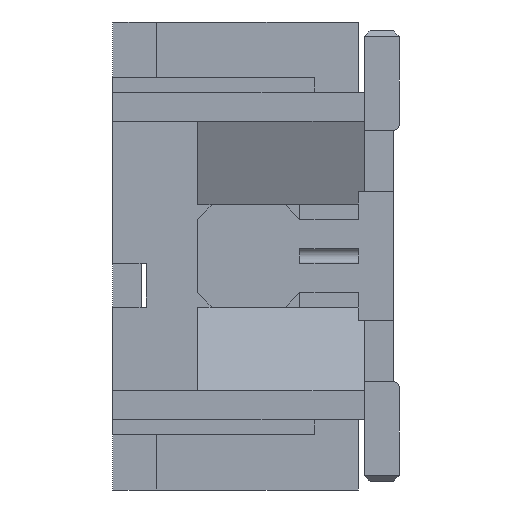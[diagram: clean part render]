
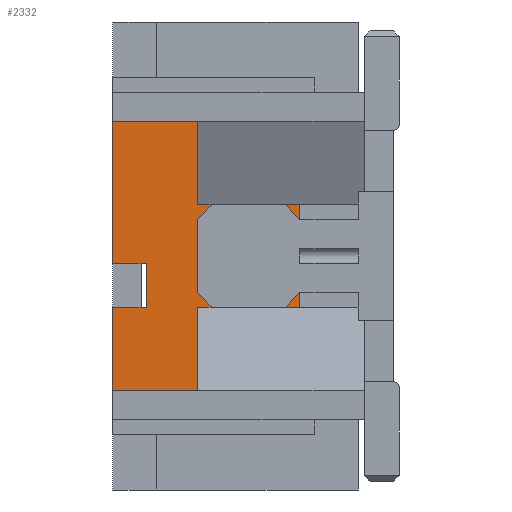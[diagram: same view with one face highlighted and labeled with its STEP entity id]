
A CAD part, left-side view. The second image highlights one B-rep face of the part: STEP entity #2332.
In plain terms, the highlighted planar face has unit normal (-1, 0, 0).
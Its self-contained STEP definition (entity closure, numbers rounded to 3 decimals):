
#242 = DIRECTION ( 'NONE',  ( 0., 0., 1. ) ) ;
#352 = CARTESIAN_POINT ( 'NONE',  ( -11.5, -0.571, -0.875 ) ) ;
#428 = CARTESIAN_POINT ( 'NONE',  ( -11.5, -4.2, 0. ) ) ;
#463 = ORIENTED_EDGE ( 'NONE', *, *, #14022, .F. ) ;
#470 = CARTESIAN_POINT ( 'NONE',  ( -11.5, -1.7, 0.875 ) ) ;
#491 = CARTESIAN_POINT ( 'NONE',  ( -11.5, -1.7, 0.875 ) ) ;
#690 = CARTESIAN_POINT ( 'NONE',  ( -11.5, -1.7, -0.875 ) ) ;
#792 = CARTESIAN_POINT ( 'NONE',  ( -11.5, -2.95, 0.875 ) ) ;
#853 = EDGE_CURVE ( 'NONE', #11044, #1030, #6960, .T. ) ;
#918 = DIRECTION ( 'NONE',  ( 0., -0.707, -0.707 ) ) ;
#963 = CARTESIAN_POINT ( 'NONE',  ( -11.5, 0., -0.875 ) ) ;
#1030 = VERTEX_POINT ( 'NONE', #3813 ) ;
#1186 = EDGE_CURVE ( 'NONE', #6332, #4496, #5070, .T. ) ;
#1201 = LINE ( 'NONE', #5877, #12425 ) ;
#1309 = LINE ( 'NONE', #13094, #9973 ) ;
#1402 = VERTEX_POINT ( 'NONE', #963 ) ;
#1408 = LINE ( 'NONE', #11776, #12633 ) ;
#1562 = DIRECTION ( 'NONE',  ( 0., 0., 1. ) ) ;
#1792 = VERTEX_POINT ( 'NONE', #5362 ) ;
#2065 = LINE ( 'NONE', #6339, #7475 ) ;
#2066 = LINE ( 'NONE', #8643, #5958 ) ;
#2165 = EDGE_CURVE ( 'NONE', #10479, #4781, #11346, .T. ) ;
#2173 = LINE ( 'NONE', #5677, #14034 ) ;
#2332 = ADVANCED_FACE ( 'NONE', ( #7233 ), #5867, .T. ) ;
#2513 = CARTESIAN_POINT ( 'NONE',  ( -11.5, -1.45, -0.625 ) ) ;
#2693 = VECTOR ( 'NONE', #4143, 1000. ) ;
#3069 = VECTOR ( 'NONE', #5381, 1000. ) ;
#3166 = DIRECTION ( 'NONE',  ( 0., 1., 0. ) ) ;
#3254 = VERTEX_POINT ( 'NONE', #8740 ) ;
#3358 = EDGE_CURVE ( 'NONE', #4781, #13462, #6889, .T. ) ;
#3499 = CARTESIAN_POINT ( 'NONE',  ( -11.5, -4.2, 2.3 ) ) ;
#3618 = DIRECTION ( 'NONE',  ( 0., 0., -1. ) ) ;
#3619 = VERTEX_POINT ( 'NONE', #5140 ) ;
#3813 = CARTESIAN_POINT ( 'NONE',  ( -11.5, -2.95, -0.875 ) ) ;
#3894 = VERTEX_POINT ( 'NONE', #9274 ) ;
#3944 = ORIENTED_EDGE ( 'NONE', *, *, #2165, .F. ) ;
#4143 = DIRECTION ( 'NONE',  ( 0., 0., 1. ) ) ;
#4269 = LINE ( 'NONE', #792, #12608 ) ;
#4334 = EDGE_LOOP ( 'NONE', ( #13815, #11617, #11859, #463, #9746, #12419, #11895, #11834, #13046, #10550, #8962, #3944, #6616, #11567, #9872, #10050 ) ) ;
#4496 = VERTEX_POINT ( 'NONE', #491 ) ;
#4546 = EDGE_CURVE ( 'NONE', #10479, #1402, #5923, .T. ) ;
#4689 = VECTOR ( 'NONE', #3618, 1000. ) ;
#4781 = VERTEX_POINT ( 'NONE', #7228 ) ;
#5070 = LINE ( 'NONE', #470, #13401 ) ;
#5140 = CARTESIAN_POINT ( 'NONE',  ( -11.5, 0., 2.3 ) ) ;
#5160 = DIRECTION ( 'NONE',  ( 0., 0.707, 0.707 ) ) ;
#5362 = CARTESIAN_POINT ( 'NONE',  ( -11.5, -3.2, 2.3 ) ) ;
#5381 = DIRECTION ( 'NONE',  ( 0., 1., 0. ) ) ;
#5486 = DIRECTION ( 'NONE',  ( 0., 0., 1. ) ) ;
#5677 = CARTESIAN_POINT ( 'NONE',  ( -11.5, -3.2, -0.625 ) ) ;
#5796 = VECTOR ( 'NONE', #3166, 1000. ) ;
#5867 = PLANE ( 'NONE',  #8405 ) ;
#5877 = CARTESIAN_POINT ( 'NONE',  ( -11.5, 0., 0. ) ) ;
#5923 = LINE ( 'NONE', #10122, #3069 ) ;
#5958 = VECTOR ( 'NONE', #242, 1000. ) ;
#6152 = LINE ( 'NONE', #13952, #5796 ) ;
#6203 = EDGE_CURVE ( 'NONE', #1030, #10023, #2173, .T. ) ;
#6217 = LINE ( 'NONE', #3499, #11663 ) ;
#6332 = VERTEX_POINT ( 'NONE', #10350 ) ;
#6339 = CARTESIAN_POINT ( 'NONE',  ( -11.5, -1.7, -0.875 ) ) ;
#6370 = CARTESIAN_POINT ( 'NONE',  ( -11.5, -3.2, 0.625 ) ) ;
#6468 = DIRECTION ( 'NONE',  ( 0., -0.707, 0.707 ) ) ;
#6616 = ORIENTED_EDGE ( 'NONE', *, *, #4546, .T. ) ;
#6813 = EDGE_CURVE ( 'NONE', #1792, #3619, #6217, .T. ) ;
#6879 = DIRECTION ( 'NONE',  ( 0., -1., 0. ) ) ;
#6889 = LINE ( 'NONE', #7126, #12343 ) ;
#6960 = LINE ( 'NONE', #10412, #12416 ) ;
#6967 = DIRECTION ( 'NONE',  ( 0., 0., 1. ) ) ;
#7093 = CARTESIAN_POINT ( 'NONE',  ( -11.5, 0., -0.125 ) ) ;
#7126 = CARTESIAN_POINT ( 'NONE',  ( -11.5, -4.2, -0.125 ) ) ;
#7194 = EDGE_CURVE ( 'NONE', #4496, #3254, #1408, .T. ) ;
#7228 = CARTESIAN_POINT ( 'NONE',  ( -11.5, -0.571, -0.125 ) ) ;
#7233 = FACE_OUTER_BOUND ( 'NONE', #4334, .T. ) ;
#7475 = VECTOR ( 'NONE', #918, 1000. ) ;
#7586 = VERTEX_POINT ( 'NONE', #6370 ) ;
#7981 = DIRECTION ( 'NONE',  ( 0., 1., 0. ) ) ;
#8032 = DIRECTION ( 'NONE',  ( -1., 0., 0. ) ) ;
#8217 = EDGE_CURVE ( 'NONE', #12003, #1402, #2066, .T. ) ;
#8405 = AXIS2_PLACEMENT_3D ( 'NONE', #428, #8032, #1562 ) ;
#8608 = DIRECTION ( 'NONE',  ( 0., 0.707, -0.707 ) ) ;
#8643 = CARTESIAN_POINT ( 'NONE',  ( -11.5, 0., 0. ) ) ;
#8740 = CARTESIAN_POINT ( 'NONE',  ( -11.5, -1.45, 0.625 ) ) ;
#8962 = ORIENTED_EDGE ( 'NONE', *, *, #3358, .F. ) ;
#8994 = DIRECTION ( 'NONE',  ( 0., 0., 1. ) ) ;
#9274 = CARTESIAN_POINT ( 'NONE',  ( -11.5, -1.45, -0.625 ) ) ;
#9746 = ORIENTED_EDGE ( 'NONE', *, *, #7194, .F. ) ;
#9767 = EDGE_CURVE ( 'NONE', #7586, #6332, #4269, .T. ) ;
#9839 = EDGE_CURVE ( 'NONE', #11336, #12003, #6152, .T. ) ;
#9872 = ORIENTED_EDGE ( 'NONE', *, *, #9839, .F. ) ;
#9973 = VECTOR ( 'NONE', #5486, 1000. ) ;
#10023 = VERTEX_POINT ( 'NONE', #11494 ) ;
#10050 = ORIENTED_EDGE ( 'NONE', *, *, #10832, .T. ) ;
#10060 = CARTESIAN_POINT ( 'NONE',  ( -11.5, -3.2, 0. ) ) ;
#10122 = CARTESIAN_POINT ( 'NONE',  ( -11.5, -4.2, -0.875 ) ) ;
#10350 = CARTESIAN_POINT ( 'NONE',  ( -11.5, -2.95, 0.875 ) ) ;
#10412 = CARTESIAN_POINT ( 'NONE',  ( -11.5, -2.95, -0.875 ) ) ;
#10418 = CARTESIAN_POINT ( 'NONE',  ( -11.5, -0.571, 0. ) ) ;
#10479 = VERTEX_POINT ( 'NONE', #352 ) ;
#10490 = LINE ( 'NONE', #2513, #4689 ) ;
#10526 = EDGE_CURVE ( 'NONE', #13462, #3619, #1201, .T. ) ;
#10550 = ORIENTED_EDGE ( 'NONE', *, *, #10526, .F. ) ;
#10832 = EDGE_CURVE ( 'NONE', #11336, #10023, #11923, .T. ) ;
#10909 = CARTESIAN_POINT ( 'NONE',  ( -11.5, -3.2, -2.3 ) ) ;
#11044 = VERTEX_POINT ( 'NONE', #690 ) ;
#11218 = EDGE_CURVE ( 'NONE', #3894, #11044, #2065, .T. ) ;
#11336 = VERTEX_POINT ( 'NONE', #10909 ) ;
#11346 = LINE ( 'NONE', #10418, #2693 ) ;
#11494 = CARTESIAN_POINT ( 'NONE',  ( -11.5, -3.2, -0.625 ) ) ;
#11567 = ORIENTED_EDGE ( 'NONE', *, *, #8217, .F. ) ;
#11572 = VECTOR ( 'NONE', #8994, 1000. ) ;
#11617 = ORIENTED_EDGE ( 'NONE', *, *, #853, .F. ) ;
#11663 = VECTOR ( 'NONE', #13336, 1000. ) ;
#11776 = CARTESIAN_POINT ( 'NONE',  ( -11.5, -1.45, 0.625 ) ) ;
#11834 = ORIENTED_EDGE ( 'NONE', *, *, #13860, .T. ) ;
#11859 = ORIENTED_EDGE ( 'NONE', *, *, #11218, .F. ) ;
#11895 = ORIENTED_EDGE ( 'NONE', *, *, #9767, .F. ) ;
#11923 = LINE ( 'NONE', #10060, #11572 ) ;
#12003 = VERTEX_POINT ( 'NONE', #13130 ) ;
#12343 = VECTOR ( 'NONE', #12615, 1000. ) ;
#12416 = VECTOR ( 'NONE', #6879, 1000. ) ;
#12419 = ORIENTED_EDGE ( 'NONE', *, *, #1186, .F. ) ;
#12425 = VECTOR ( 'NONE', #6967, 1000. ) ;
#12608 = VECTOR ( 'NONE', #5160, 1000. ) ;
#12615 = DIRECTION ( 'NONE',  ( 0., 1., 0. ) ) ;
#12633 = VECTOR ( 'NONE', #8608, 1000. ) ;
#13046 = ORIENTED_EDGE ( 'NONE', *, *, #6813, .T. ) ;
#13094 = CARTESIAN_POINT ( 'NONE',  ( -11.5, -3.2, 0. ) ) ;
#13130 = CARTESIAN_POINT ( 'NONE',  ( -11.5, 0., -2.3 ) ) ;
#13336 = DIRECTION ( 'NONE',  ( 0., 1., 0. ) ) ;
#13401 = VECTOR ( 'NONE', #7981, 1000. ) ;
#13462 = VERTEX_POINT ( 'NONE', #7093 ) ;
#13815 = ORIENTED_EDGE ( 'NONE', *, *, #6203, .F. ) ;
#13860 = EDGE_CURVE ( 'NONE', #7586, #1792, #1309, .T. ) ;
#13952 = CARTESIAN_POINT ( 'NONE',  ( -11.5, -4.2, -2.3 ) ) ;
#14022 = EDGE_CURVE ( 'NONE', #3254, #3894, #10490, .T. ) ;
#14034 = VECTOR ( 'NONE', #6468, 1000. ) ;
